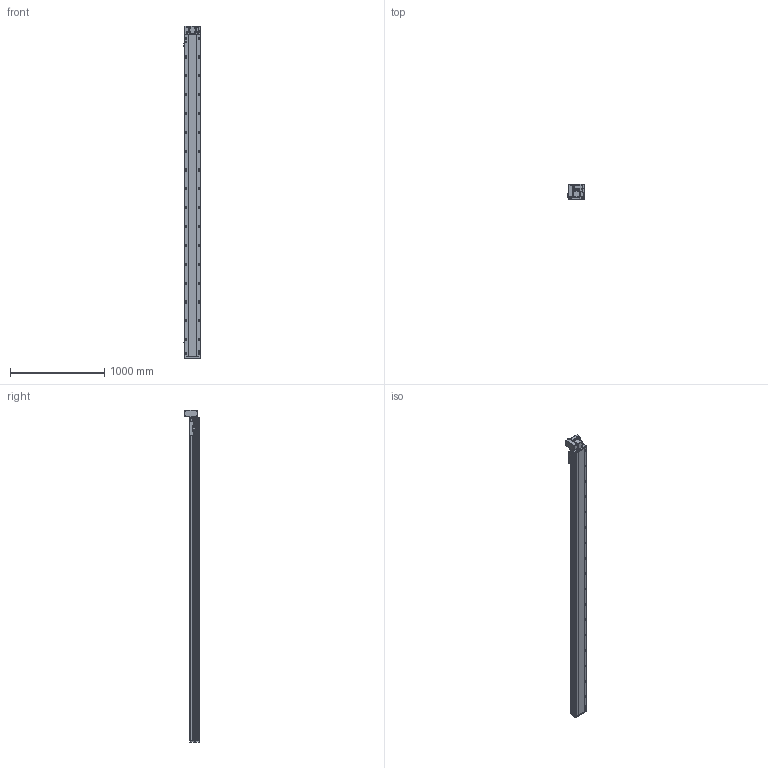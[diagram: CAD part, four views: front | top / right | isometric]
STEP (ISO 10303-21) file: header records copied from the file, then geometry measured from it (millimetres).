
FILE_DESCRIPTION (( 'STEP AP214' ), '1' );
FILE_NAME ('RTB17S-XX-3150-LW-M40-C4.STEP', '2025-12-11T07:22:10', ( '' ), ( '' ), 'SwSTEP 2.0', 'SolidWorks 2018', '' );
FILE_SCHEMA (( 'AUTOMOTIVE_DESIGN' ));
Length unit declared in the file: millimetre
Products named in the file (14): RTB14-L-008-M20--萇儂啣^RTB17S-LW-々湍釱蚾饜-400W_RTB17S-XX-XX-LW-M40-C4; RTB17S-XX-3150-LW-M40-C4; RTB14-L-005P--轴承塑胶压盖^RTB17S-LW-皮带座装配-400W_RTB17S-XX-XX-LW-M40-C4; RTB17-R-011菁釱^RTB17S-XX-XX-LW-M40-C4; RTB14-L-017P^RTB17S-LW-々湍釱蚾饜-400W_RTB17S-XX-XX-LW-M40-C4; RTH13-BL-012覜茼え俋离^RTB17S-XX-XX-LW-M40-C4; RTB17S-LW-々湍釱蚾饜-400W^RTB17S-XX-XX-LW-M40-C4; RTB14-L-018P^RTB17S-LW-々湍釱蚾饜-400W_RTB17S-XX-XX-LW-M40-C4; 400W侜督萇儂^RTB17S-XX-XX-LW-M40-C4; RTB17S-L-001耜醱啣^RTB17S-XX-XX-LW-M40-C4; RTB17S-L-004佪裝蹟譫蟀諉釱^RTB17S-XX-XX-LW-M40-C4; RTB17S-L-007奻裔^RTB17S-XX-XX-LW-M40-C4; RTB17S-L-014-T20--々湍釱^RTB17S-LW-々湍釱蚾饜-400W_RTB17S-XX-XX-LW-M40-C4; OMRON EE-SX672 传感器^RTB17S-XX-XX-LW-M40-C4
Assembly tree (16 placements, depth 3):
  RTB17S-XX-3150-LW-M40-C4
    RTB17-R-011菁釱^RTB17S-XX-XX-LW-M40-C4
    RTB17S-L-007奻裔^RTB17S-XX-XX-LW-M40-C4
    OMRON EE-SX672 传感器^RTB17S-XX-XX-LW-M40-C4  x3
    RTB17S-L-001耜醱啣^RTB17S-XX-XX-LW-M40-C4
    400W侜督萇儂^RTB17S-XX-XX-LW-M40-C4
    RTB17S-L-004佪裝蹟譫蟀諉釱^RTB17S-XX-XX-LW-M40-C4
    RTH13-BL-012覜茼え俋离^RTB17S-XX-XX-LW-M40-C4
    RTB17S-LW-々湍釱蚾饜-400W^RTB17S-XX-XX-LW-M40-C4
      RTB17S-L-014-T20--々湍釱^RTB17S-LW-々湍釱蚾饜-400W_RTB17S-XX-XX-LW-M40-C4
      RTB14-L-005P--轴承塑胶压盖^RTB17S-LW-皮带座装配-400W_RTB17S-XX-XX-LW-M40-C4
      RTB14-L-008-M20--萇儂啣^RTB17S-LW-々湍釱蚾饜-400W_RTB17S-XX-XX-LW-M40-C4
      RTB14-L-017P^RTB17S-LW-々湍釱蚾饜-400W_RTB17S-XX-XX-LW-M40-C4  x2
      RTB14-L-018P^RTB17S-LW-々湍釱蚾饜-400W_RTB17S-XX-XX-LW-M40-C4
Bounding box: 186 x 160.5 x 3522.5 mm (x, y, z)
Volume: 29907410.5 mm3; surface area: 3410041.3 mm2
Topology: 15 solids, 15 shells, 2381 faces, 6681 edges, 4365 vertices
Faces by surface type: plane 1090, cylinder 843, bspline 301, cone 139, torus 8
Entity records: 71081 total; most frequent: CARTESIAN_POINT 20286, ORIENTED_EDGE 10206, DIRECTION 9386, EDGE_CURVE 5103, VERTEX_POINT 3353, AXIS2_PLACEMENT_3D 3283, LINE 2820, VECTOR 2820
